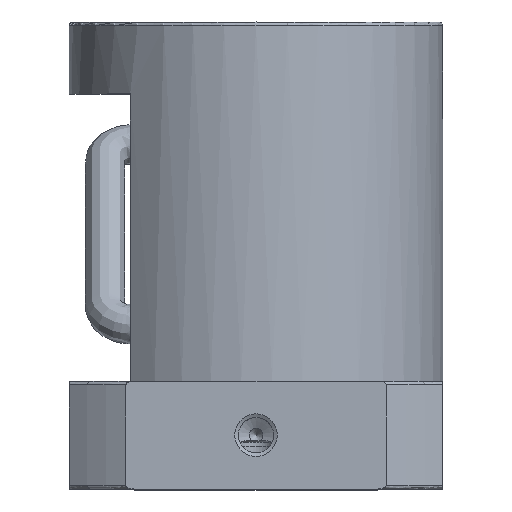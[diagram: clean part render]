
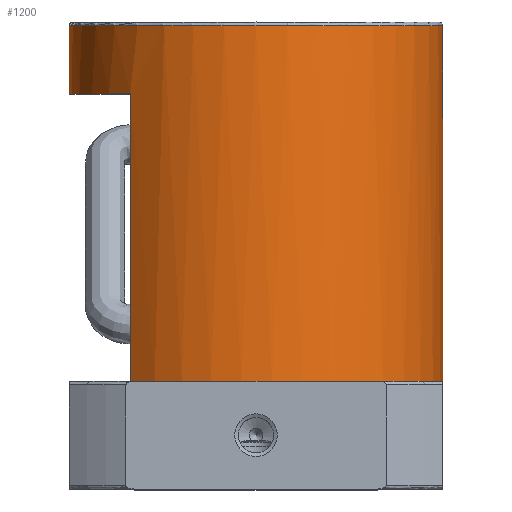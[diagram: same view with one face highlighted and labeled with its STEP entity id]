
A CAD part, top view. The second image highlights one B-rep face of the part: STEP entity #1200.
In plain terms, the highlighted cylindrical face has radius 26 mm (diameter 52 mm), a full revolution.
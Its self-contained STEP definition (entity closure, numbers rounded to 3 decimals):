
#72=CYLINDRICAL_SURFACE('',#1264,26.);
#97=CIRCLE('',#1265,26.);
#98=CIRCLE('',#1266,26.);
#99=CIRCLE('',#1267,26.);
#100=CIRCLE('',#1268,26.);
#159=ORIENTED_EDGE('',*,*,#377,.T.);
#160=ORIENTED_EDGE('',*,*,#378,.F.);
#161=ORIENTED_EDGE('',*,*,#372,.T.);
#162=ORIENTED_EDGE('',*,*,#379,.T.);
#163=ORIENTED_EDGE('',*,*,#380,.T.);
#164=ORIENTED_EDGE('',*,*,#370,.T.);
#370=EDGE_CURVE('',#480,#478,#565,.F.);
#372=EDGE_CURVE('',#479,#481,#567,.T.);
#377=EDGE_CURVE('',#486,#486,#97,.F.);
#378=EDGE_CURVE('',#479,#478,#98,.T.);
#379=EDGE_CURVE('',#481,#487,#99,.F.);
#380=EDGE_CURVE('',#487,#480,#100,.F.);
#478=VERTEX_POINT('',#1642);
#479=VERTEX_POINT('',#1643);
#480=VERTEX_POINT('',#1645);
#481=VERTEX_POINT('',#1647);
#486=VERTEX_POINT('',#1659);
#487=VERTEX_POINT('',#1662);
#565=LINE('',#1644,#586);
#567=LINE('',#1648,#588);
#586=VECTOR('',#1383,1000.);
#588=VECTOR('',#1385,1000.);
#611=EDGE_LOOP('',(#159));
#612=EDGE_LOOP('',(#160,#161,#162,#163,#164));
#705=FACE_BOUND('',#611,.T.);
#706=FACE_BOUND('',#612,.T.);
#1200=ADVANCED_FACE('',(#705,#706),#72,.T.);
#1264=AXIS2_PLACEMENT_3D('',#1657,#1394,#1395);
#1265=AXIS2_PLACEMENT_3D('',#1658,#1396,#1397);
#1266=AXIS2_PLACEMENT_3D('',#1660,#1398,#1399);
#1267=AXIS2_PLACEMENT_3D('',#1661,#1400,#1401);
#1268=AXIS2_PLACEMENT_3D('',#1663,#1402,#1403);
#1383=DIRECTION('',(0.,-1.,0.));
#1385=DIRECTION('',(0.,-1.,0.));
#1394=DIRECTION('',(0.,-1.,0.));
#1395=DIRECTION('',(0.,0.,-1.));
#1396=DIRECTION('',(0.,1.,0.));
#1397=DIRECTION('',(0.,0.,1.));
#1398=DIRECTION('',(0.,-1.,0.));
#1399=DIRECTION('',(0.,0.,-1.));
#1400=DIRECTION('',(0.,-1.,0.));
#1401=DIRECTION('',(0.,0.,-1.));
#1402=DIRECTION('',(0.,-1.,0.));
#1403=DIRECTION('',(0.,0.,-1.));
#1642=CARTESIAN_POINT('',(-17.5,55.,-19.229));
#1643=CARTESIAN_POINT('',(-17.5,55.,19.229));
#1644=CARTESIAN_POINT('',(-17.5,65.,-19.229));
#1645=CARTESIAN_POINT('',(-17.5,15.,-19.229));
#1647=CARTESIAN_POINT('',(-17.5,15.,19.229));
#1648=CARTESIAN_POINT('',(-17.5,65.,19.229));
#1657=CARTESIAN_POINT('',(0.,65.,0.));
#1658=CARTESIAN_POINT('',(0.,64.5,0.));
#1659=CARTESIAN_POINT('',(0.,64.5,26.));
#1660=CARTESIAN_POINT('',(0.,55.,0.));
#1661=CARTESIAN_POINT('',(0.,15.,0.));
#1662=CARTESIAN_POINT('',(26.,15.,0.));
#1663=CARTESIAN_POINT('',(0.,15.,0.));
